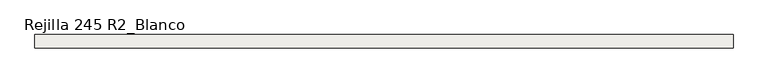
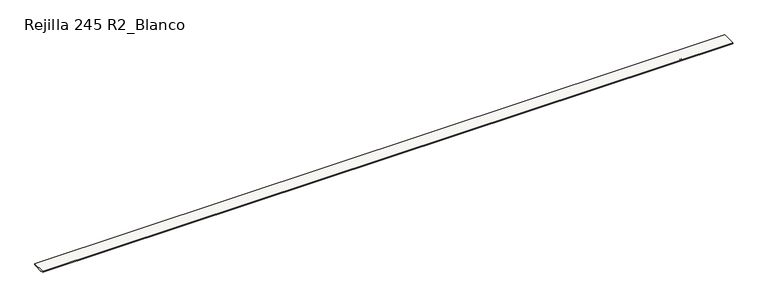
"""IFC4 building model written with IfcOpenShell, lengths in millimetres: slab geometry, ROSA GRES_245 R2_Blanco : Rejilla 245 R2_Blanco."""

from ifc_helpers import new_model, si_unit, frame, origin, place, context, project, spatial, polyline, outline, extrude, source, transform, mapped, element, save


def rejilla_245_r2_blanco_007aff3b(model_context):
    return source(origin(), model_context, "Body", "SweptSolid", [
        extrude(outline(polyline([(369.5908797, 206.3460936), (369.5908797, 228.3460936), (614.5908797, 228.3460936), (614.5908797, 206.3460936), (572.3142119, 206.3460936), (561.3142119, 195.3460936), (422.8675475, 195.3460936), (411.8675475, 206.3460936), (369.5908797, 206.3460936)])), frame((0.0, 0.0, 0.0), z_axis=(1.0, 0.0, 0.0), x_axis=(0.0, 1.0, 0.0)), (0.0, 0.0, 1.0), 12620.0),
    ])


if __name__ == "__main__":
    model = new_model("IFC4")
    model_context = context("Model", 3, world=origin())
    ifc_project = project(units=[si_unit("LENGTHUNIT", "METRE", prefix="MILLI")], contexts=[model_context])
    site = spatial("IfcSite", under=ifc_project)
    building = spatial("IfcBuilding", under=site)
    placement = place(None, origin())
    rejilla_245_r2_blanco_shape = rejilla_245_r2_blanco_007aff3b(model_context)
    element("IfcSlab", 1, ObjectType="ROSA GRES_245 R2_Blanco : Rejilla 245 R2_Blanco", at=placement, inside=building, context=model_context, shape_type="MappedRepresentation", body=[
        mapped(rejilla_245_r2_blanco_shape, transform((0.0, 0.0, 0.0), x_axis=(1.0, 0.0, 0.0), y_axis=(0.0, 1.0, 0.0), z_axis=(0.0, 0.0, 1.0))),
    ])
    save(model, "model.ifc")
